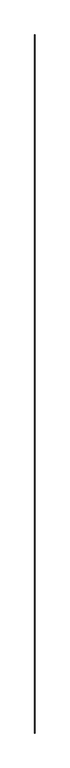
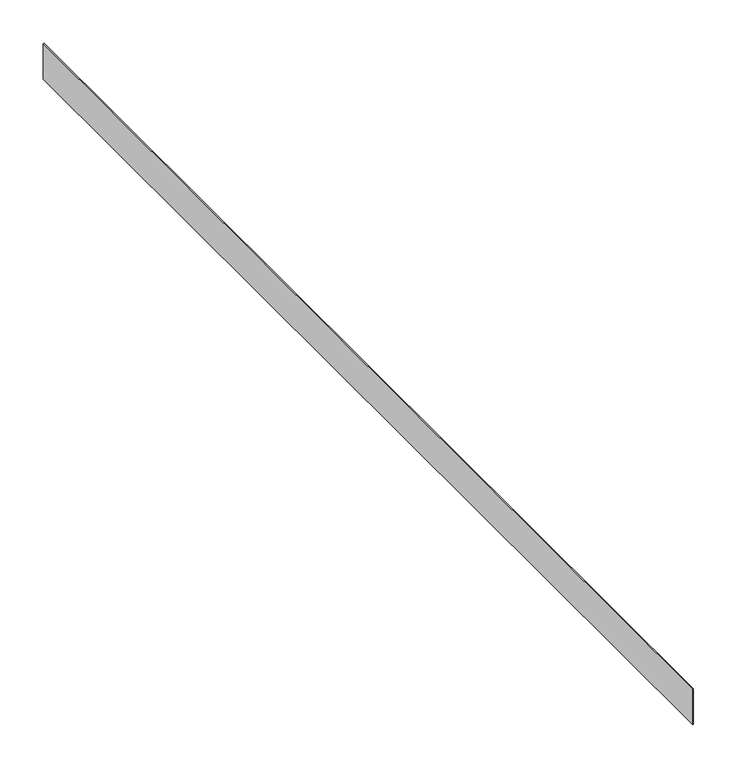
"""IFC4 building model written with IfcOpenShell, lengths in millimetres: proxy geometry, Amphibia Pressure Line : Amphibia Pressure Line."""

from ifc_helpers import new_model, si_unit, frame, origin, place, context, project, spatial, polyline, outline, extrude, source, transform, mapped, element, save


def generic_models_dc7ba5fb(model_context):
    return source(origin(), model_context, "Body", "SweptSolid", [
        extrude(outline(polyline([(2267.8295895, -1354.1299805), (2268.8295895, -1354.1299805), (2268.8295895, -2854.1299805), (2267.8295895, -2854.1299805), (2267.8295895, -1354.1299805)])), frame((0.0, 0.0, 447.476202), z_axis=(0.0, 0.0, 1.0), x_axis=(1.0, 0.0, 0.0)), (0.0, 0.0, 1.0), 50.0),
    ])


if __name__ == "__main__":
    model = new_model("IFC4")
    model_context = context("Model", 3, world=origin())
    ifc_project = project(units=[si_unit("LENGTHUNIT", "METRE", prefix="MILLI")], contexts=[model_context])
    site = spatial("IfcSite", under=ifc_project)
    building = spatial("IfcBuilding", under=site)
    placement = place(None, origin())
    generic_models_shape = generic_models_dc7ba5fb(model_context)
    element("IfcBuildingElementProxy", 1, Name="Amphibia Pressure Line : Amphibia Pressure Line", ObjectType="Amphibia Pressure Line : Amphibia Pressure Line", at=placement, inside=building, context=model_context, shape_type="MappedRepresentation", body=[
        mapped(generic_models_shape, transform((0.0, 0.0, 0.0), x_axis=(1.0, 0.0, 0.0), y_axis=(0.0, 1.0, 0.0), z_axis=(0.0, 0.0, 1.0))),
    ])
    save(model, "model.ifc")
